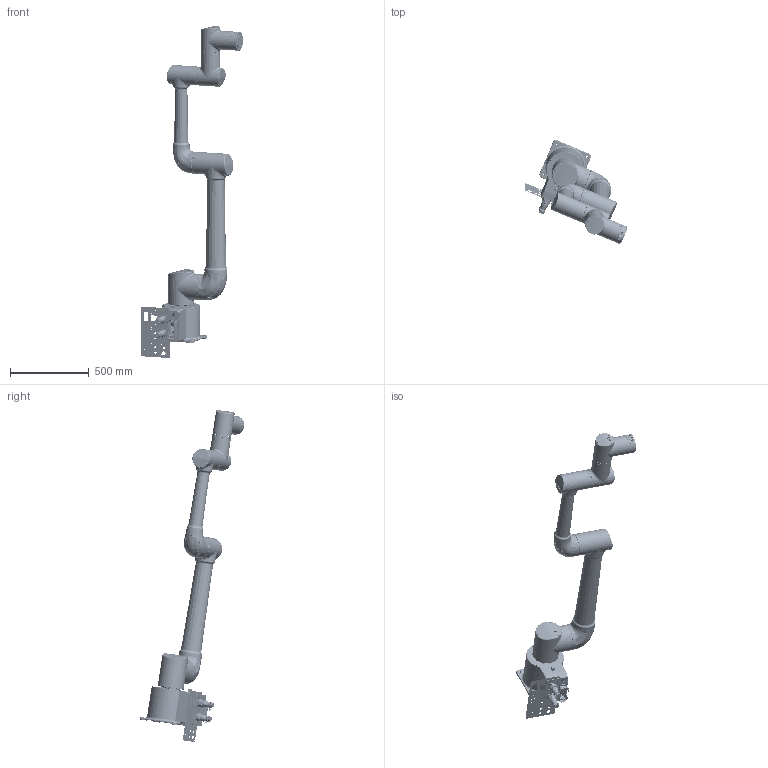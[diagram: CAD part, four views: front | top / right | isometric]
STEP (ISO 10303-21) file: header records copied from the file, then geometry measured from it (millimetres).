
FILE_DESCRIPTION((''),'2;1');
FILE_NAME('BC1600-D-6-20240_ASM_17_ASM','2024-07-22T14:12:12',('EBDGC-08'),(''),'CREO PARAMETRIC BY PTC INC, 2021063','CREO PARAMETRIC BY PTC INC, 2021063','');
FILE_SCHEMA(('AUTOMOTIVE_DESIGN { 1 0 10303 214 1 1 1 1 }'));
Length unit declared in the file: millimetre
Products named in the file (147): F6005_1; F7530_1; F7162_1; F6240_1; F7030_1; F6814_1; F7422_1; F6008_1; F6922_1; F6778_1; F7449_1; F6030_1; F6796_1; F6124_1; NONE-222836_1; NONE-225198_1; F8084_1; F8098_1; F6994_1; F8048_1; F7048_1; F7637_1; F6028_1; F7351_1; F6011_1; F6020_1; F5967_1; F6016_1; F7245_1; F7744_1; F7503_1; F6631_1; F7805_1; F7012_1; F8010_1; F7645_1; F6025_1; F7061_1; F7611_1; F6010_1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
Assembly tree (392 placements, depth 4):
  BC1600-D-6-20240_ASM_17_ASM
    MIS32B_X2_517382826A217EC4_X0___ASM  x2
      F6005_1
      F7530_1
      F7162_1
      F6240_1
      F7030_1
      F6814_1
      F7422_1
      F6008_1
      F6922_1
      F6778_1
      F7449_1
      F6030_1
      F6796_1
      F6124_1
      NONE-222836_1
      NONE-225198_1
      F8084_1
      F8098_1
      F6994_1
      F8048_1
      F7048_1
      F7637_1
      F6028_1
      F7351_1
      F6011_1
      F6020_1
      F5967_1
      F6016_1
      F7245_1
      F7744_1
      F7503_1
      F6631_1
      F7805_1
      F7012_1
      F8010_1
      F7645_1
      F6025_1
      F7061_1
      F7611_1
      F6010_1
      F6958_1
      F6024_1
      F6019_1
      F6029_1
      F8066_1
      F6018_1
      F7476_1
      F7818_1
      F6904_1
      F6013_1
      F6976_1
      F6886_1
      F7636_1
      F6595_1
      F6009_1
      F6014_1
      F7992_1
      F6023_1
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Bounding box: 649.71 x 665.66 x 2114.1 mm (x, y, z)
Volume: 14593251.8 mm3; surface area: 4820321.8 mm2
Topology: 523 solids, 578 shells, 20977 faces, 49703 edges, 30376 vertices
Faces by surface type: cylinder 6986, plane 6010, cone 5705, torus 1142, bspline 723, sphere 250, extrusion 149, revolution 12
Entity records: 400160 total; most frequent: CARTESIAN_POINT 111424, DIRECTION 53972, ORIENTED_EDGE 44630, EDGE_CURVE 22402, AXIS2_PLACEMENT_3D 21659, VERTEX_POINT 14096, EDGE_LOOP 11278, CIRCLE 10606
